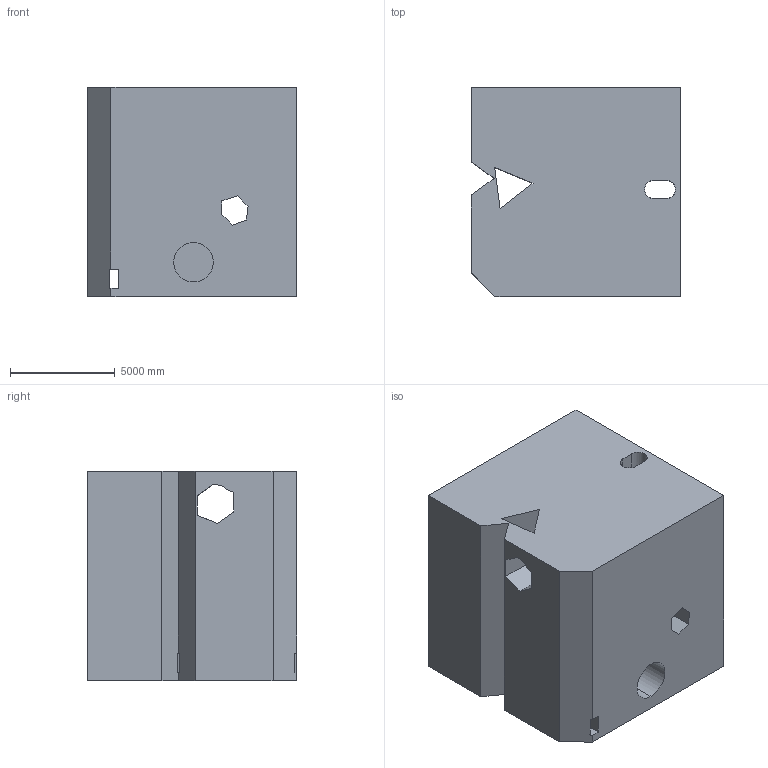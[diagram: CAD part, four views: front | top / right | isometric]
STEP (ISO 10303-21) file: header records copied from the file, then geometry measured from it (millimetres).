
FILE_DESCRIPTION (( 'STEP AP203' ), '1' );
FILE_NAME ('98.STEP', '2022-09-01T12:11:15', ( 'user' ), ( '' ), 'SwSTEP 2.0', 'SolidWorks 2021', '' );
FILE_SCHEMA (( 'CONFIG_CONTROL_DESIGN' ));
Length unit declared in the file: centimetre
Products named in the file (1): 98
Bounding box: 10000 x 10000 x 10000 mm (x, y, z)
Volume: 880058620196.2 mm3; surface area: 852525116.7 mm2
Topology: 1 solids, 1 shells, 51 faces, 177 edges, 118 vertices
Faces by surface type: plane 43, cylinder 8
Entity records: 2230 total; most frequent: CARTESIAN_POINT 587, ORIENTED_EDGE 354, DIRECTION 293, EDGE_CURVE 177, LINE 153, VECTOR 153, VERTEX_POINT 118, AXIS2_PLACEMENT_3D 70
